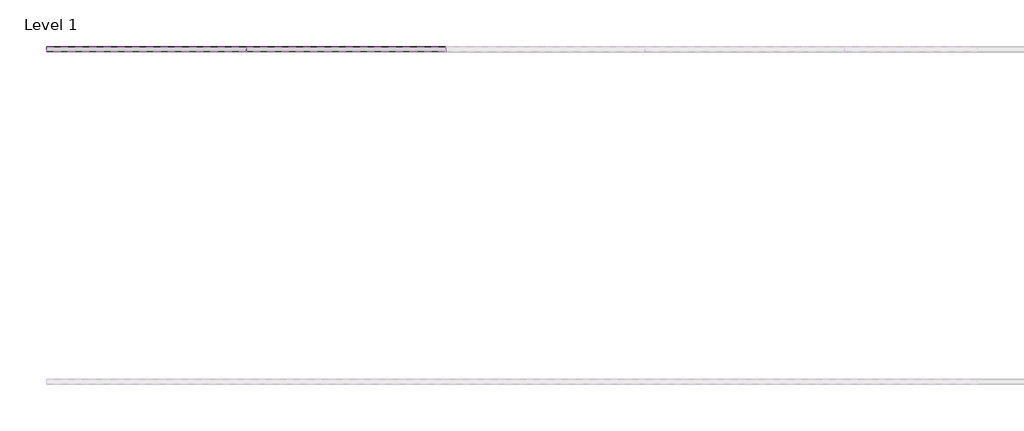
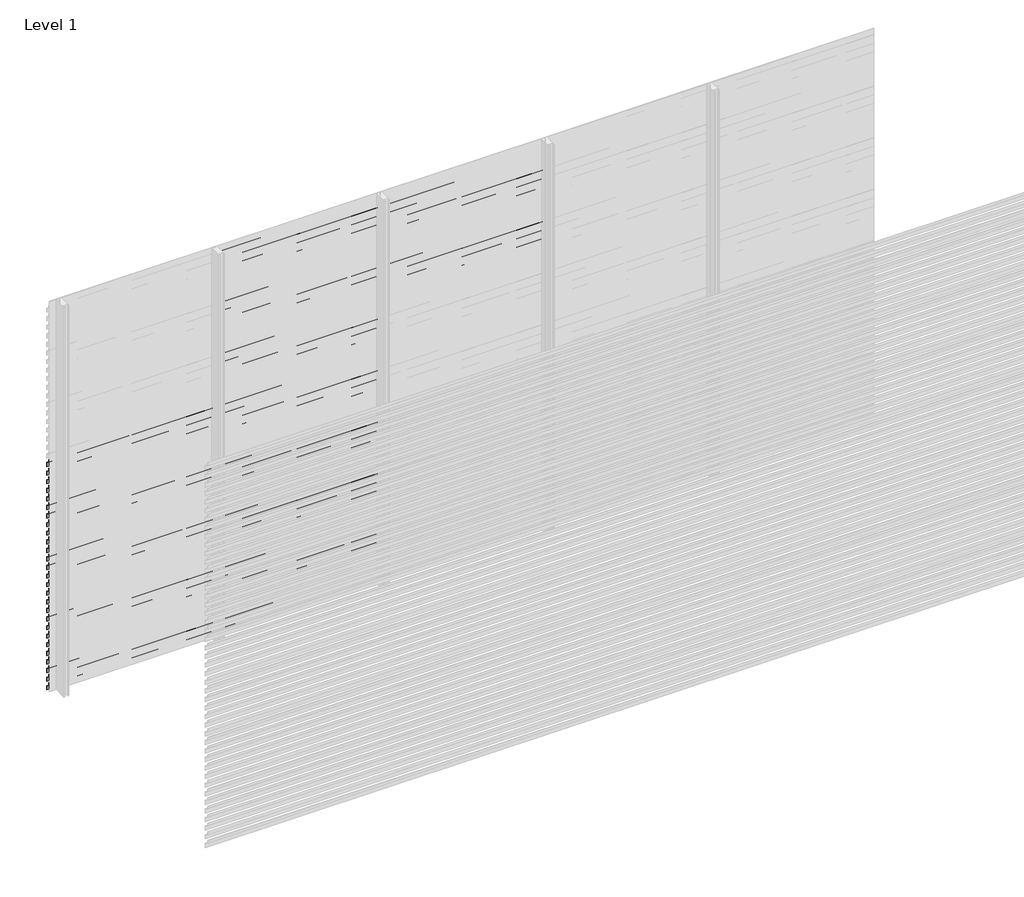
# One storey, part 106 of 540: 85 proxies.
"""IFC4 building model written with IfcOpenShell, lengths in millimetres."""

import ifcopenshell
import ifcopenshell.guid

model = None  # the IFC model being written
_history = None  # IfcOwnerHistory: only IFC2X3 demands one
_inside = {}  # id of a spatial element -> (the spatial element, [elements in it])
_under = {}  # id of a project, library or spatial element -> (it, [spatial elements below it])
_declared = {}  # id of a project -> (the project, [libraries it declares])
_typed = {}  # id of a type object -> (the type object, [elements of that type])
_made_of = {}  # id of a material, layer set ... -> (it, [elements and type objects made of it])


def new_model(schema):
    """Start an empty IFC model of exactly this schema.

    Asked for "IFC4X3", IfcOpenShell would pick the latest addendum, in which some entities
    have other attributes; the version numbers below select the first issue.
    IFC2X3 requires an IfcOwnerHistory on every rooted entity: one is made here for all.
    """
    global model, _history
    if schema == "IFC4X3":
        model = ifcopenshell.file(schema_version=(4, 3, 0, 0))
    else:
        model = ifcopenshell.file(schema=schema)
    _inside.clear()
    _under.clear()
    _declared.clear()
    _typed.clear()
    _made_of.clear()
    _history = None
    if model.schema == "IFC2X3":
        org = make("IfcOrganization", Name="unknown")
        user = make(
            "IfcPersonAndOrganization",
            ThePerson=make("IfcPerson", FamilyName="unknown"),
            TheOrganization=org,
        )
        app = make(
            "IfcApplication",
            ApplicationDeveloper=org,
            Version="unknown",
            ApplicationFullName="unknown",
            ApplicationIdentifier="unknown",
        )
        _history = make(
            "IfcOwnerHistory",
            OwningUser=user,
            OwningApplication=app,
            ChangeAction="ADDED",
            CreationDate=0,
        )
    return model


def make(cls, **values):
    """One entity of the class cls with the attributes given. An attribute that is None is left unset."""
    return model.create_entity(
        cls, **{name: value for name, value in values.items() if value is not None}
    )


def rooted(cls, **values):
    """An entity with a GlobalId (a new one), such as an element, a storey or a relation."""
    return make(cls, GlobalId=ifcopenshell.guid.new(), OwnerHistory=_history, **values)


def si_unit(unit_type, name, prefix=None):
    """IfcSIUnit, for example si_unit("LENGTHUNIT", "METRE", prefix="MILLI")."""
    return make("IfcSIUnit", UnitType=unit_type, Prefix=prefix, Name=name)


def assignment(units):
    """IfcUnitAssignment: the units of a project."""
    return None if units is None else make("IfcUnitAssignment", Units=units)


def point(xyz):
    """IfcCartesianPoint."""
    return None if xyz is None else make("IfcCartesianPoint", Coordinates=xyz)


def direction(xyz):
    """IfcDirection."""
    return None if xyz is None else make("IfcDirection", DirectionRatios=xyz)


def frame(location, z_axis=None, x_axis=None):
    """IfcAxis2Placement3D, a coordinate frame: its origin and axes. An axis left out is left unset."""
    return make(
        "IfcAxis2Placement3D",
        Location=point(location),
        Axis=direction(z_axis),
        RefDirection=direction(x_axis),
    )


def origin():
    """The frame at (0, 0, 0) with its axes left unset."""
    return frame((0.0, 0.0, 0.0))


def place(relative_to, where):
    """IfcLocalPlacement: puts the frame where relative to a parent placement (None: the world)."""
    return make(
        "IfcLocalPlacement", PlacementRelTo=relative_to, RelativePlacement=where
    )


def context(
    kind, dimensions, precision=None, world=None, true_north=None, identifier=None
):
    """IfcGeometricRepresentationContext, for example the 3D "Model" context."""
    return make(
        "IfcGeometricRepresentationContext",
        ContextIdentifier=identifier,
        ContextType=kind,
        CoordinateSpaceDimension=dimensions,
        Precision=precision,
        WorldCoordinateSystem=world,
        TrueNorth=true_north,
    )


def project(units=None, contexts=None):
    """IfcProject with its units and contexts."""
    return rooted(
        "IfcProject",
        Name="project",
        RepresentationContexts=contexts,
        UnitsInContext=assignment(units),
    )


def spatial(cls, under=None, at=None, **own):
    """A site, building, storey or space (cls), placed at a placement, below another one or the project."""
    s = rooted(cls, ObjectPlacement=at, **own)
    if under is not None:
        _under.setdefault(under.id(), (under, []))[1].append(s)
    return s


def polyline(points):
    """IfcPolyline through the points."""
    return make("IfcPolyline", Points=[point(p) for p in points])


def outline(outer, holes=None, kind="AREA"):
    """IfcArbitraryClosedProfileDef: a profile drawn as a closed curve; with holes, ...WithVoids."""
    if holes is None:
        return make("IfcArbitraryClosedProfileDef", ProfileType=kind, OuterCurve=outer)
    return make(
        "IfcArbitraryProfileDefWithVoids",
        ProfileType=kind,
        OuterCurve=outer,
        InnerCurves=holes,
    )


def extrude(swept, where, along, depth):
    """IfcExtrudedAreaSolid: the profile swept, set in the frame where, extruded along a direction by depth."""
    return make(
        "IfcExtrudedAreaSolid",
        SweptArea=swept,
        Position=where,
        ExtrudedDirection=direction(along),
        Depth=depth,
    )


def shape(context_of_items, identifier, shape_type, items):
    """IfcShapeRepresentation: the items that make up one representation, for example the "Body"."""
    return make(
        "IfcShapeRepresentation",
        ContextOfItems=context_of_items,
        RepresentationIdentifier=identifier,
        RepresentationType=shape_type,
        Items=items,
    )


def made_of(thing, what):
    """Note that an element or type object is made of a material, layer set ...; save() writes the relation."""
    if what is not None:
        _made_of.setdefault(what.id(), (what, []))[1].append(thing)
    return thing


def element(
    cls,
    number,
    at=None,
    inside=None,
    cuts=None,
    type_object=None,
    material=None,
    context=None,
    identifier="Body",
    shape_type=None,
    held_by="IfcProductDefinitionShape",
    body=None,
    shapes=None,
    **own,
):
    """One element of the class cls, such as IfcWall. Its Tag is "e" and its number.

    at: its placement. inside: the storey or other place that contains it. cuts: it is an
    opening in that element (IfcRelVoidsElement). A single representation is given by context,
    identifier, shape_type and body (its items); several are given by shapes. held_by: the class
    of the entity that holds the representations. save() writes the other relations.
    """
    e = rooted(cls, Tag="e%d" % number, ObjectPlacement=at, **own)
    if body is not None:
        shapes = [shape(context, identifier, shape_type, body)]
    if shapes is not None:
        e.Representation = make(held_by, Representations=shapes)
    if inside is not None:
        _inside.setdefault(inside.id(), (inside, []))[1].append(e)
    if cuts is not None:
        rooted(
            "IfcRelVoidsElement", RelatingBuildingElement=cuts, RelatedOpeningElement=e
        )
    if type_object is not None:
        _typed.setdefault(type_object.id(), (type_object, []))[1].append(e)
    return made_of(e, material)


def aggregate(whole, parts):
    """IfcRelAggregates: a whole, such as a stair, and the parts it consists of."""
    return rooted("IfcRelAggregates", RelatingObject=whole, RelatedObjects=parts)


def save(model, path):
    """Write the relations noted so far, then the file.

    IfcRelAggregates (storeys below a building ...), IfcRelContainedInSpatialStructure (elements
    in a storey), IfcRelDefinesByType, IfcRelAssociatesMaterial and IfcRelDeclares: one each for
    every whole, place, type object, material and project.
    """
    for whole, parts in _under.values():
        aggregate(whole, parts)
    for where, things in _inside.values():
        rooted(
            "IfcRelContainedInSpatialStructure",
            RelatedElements=things,
            RelatingStructure=where,
        )
    for kind, things in _typed.values():
        rooted("IfcRelDefinesByType", RelatedObjects=things, RelatingType=kind)
    for what, things in _made_of.values():
        rooted("IfcRelAssociatesMaterial", RelatedObjects=things, RelatingMaterial=what)
    for by, libraries in _declared.values():
        rooted("IfcRelDeclares", RelatingContext=by, RelatedDefinitions=libraries)
    model.write(path)


model = new_model("IFC4")

# Units and contexts
model_context = context("Model", 3, world=origin())
ifc_project = project(units=[si_unit("LENGTHUNIT", "METRE", prefix="MILLI")], contexts=[model_context])

# Site, building, storey
site = spatial("IfcSite", under=ifc_project)
building = spatial("IfcBuilding", under=site)
storey = spatial("IfcBuildingStorey", under=building, Name="Level 1", Elevation=0.0)

# Proxies
placement = place(None, origin())
element("IfcBuildingElementProxy", 1, Name="Wall Sweeps", at=placement, inside=storey, context=model_context, shape_type="SweptSolid", body=[
    extrude(outline(polyline([(51514.0540136, 1742.0), (51514.0540136, 1709.0), (51512.8040136, 1709.7216933), (51512.8040136, 1741.2872415), (51483.0540136, 1762.0588647), (51483.0540136, 1782.0), (51484.3040136, 1782.0), (51484.3040136, 1762.7716232), (51514.0540136, 1742.0)])), frame((44966.6208097, 0.0, 0.0), z_axis=(1.0, 0.0, 0.0), x_axis=(0.0, 1.0, 0.0)), (0.0, 0.0, 1.0), 1200.0),
])
element("IfcBuildingElementProxy", 2, Name="Wall Sweeps", at=placement, inside=storey, context=model_context, shape_type="SweptSolid", body=[
    extrude(outline(polyline([(51514.0540136, 1676.0), (51514.0540136, 1643.0), (51512.8040136, 1643.7216933), (51512.8040136, 1675.2872415), (51483.0540136, 1696.0588647), (51483.0540136, 1716.0), (51484.3040136, 1716.0), (51484.3040136, 1696.7716232), (51514.0540136, 1676.0)])), frame((44966.6208097, 0.0, 0.0), z_axis=(1.0, 0.0, 0.0), x_axis=(0.0, 1.0, 0.0)), (0.0, 0.0, 1.0), 1200.0),
])
element("IfcBuildingElementProxy", 3, Name="Wall Sweeps", at=placement, inside=storey, context=model_context, shape_type="SweptSolid", body=[
    extrude(outline(polyline([(51514.0540136, 1610.0), (51514.0540136, 1577.0), (51512.8040136, 1577.7216933), (51512.8040136, 1609.2872415), (51483.0540136, 1630.0588647), (51483.0540136, 1650.0), (51484.3040136, 1650.0), (51484.3040136, 1630.7716232), (51514.0540136, 1610.0)])), frame((44966.6208097, 0.0, 0.0), z_axis=(1.0, 0.0, 0.0), x_axis=(0.0, 1.0, 0.0)), (0.0, 0.0, 1.0), 1200.0),
])
element("IfcBuildingElementProxy", 4, Name="Wall Sweeps", at=placement, inside=storey, context=model_context, shape_type="SweptSolid", body=[
    extrude(outline(polyline([(51514.0540136, 1544.0), (51514.0540136, 1511.0), (51512.8040136, 1511.7216933), (51512.8040136, 1543.2872415), (51483.0540136, 1564.0588647), (51483.0540136, 1584.0), (51484.3040136, 1584.0), (51484.3040136, 1564.7716232), (51514.0540136, 1544.0)])), frame((44966.6208097, 0.0, 0.0), z_axis=(1.0, 0.0, 0.0), x_axis=(0.0, 1.0, 0.0)), (0.0, 0.0, 1.0), 1200.0),
])
element("IfcBuildingElementProxy", 5, Name="Wall Sweeps", at=placement, inside=storey, context=model_context, shape_type="SweptSolid", body=[
    extrude(outline(polyline([(51514.0540136, 1478.0), (51514.0540136, 1445.0), (51512.8040136, 1445.7216933), (51512.8040136, 1477.2872415), (51483.0540136, 1498.0588647), (51483.0540136, 1518.0), (51484.3040136, 1518.0), (51484.3040136, 1498.7716232), (51514.0540136, 1478.0)])), frame((44966.6208097, 0.0, 0.0), z_axis=(1.0, 0.0, 0.0), x_axis=(0.0, 1.0, 0.0)), (0.0, 0.0, 1.0), 1200.0),
])
element("IfcBuildingElementProxy", 6, Name="Wall Sweeps", at=placement, inside=storey, context=model_context, shape_type="SweptSolid", body=[
    extrude(outline(polyline([(51514.0540136, 1412.0), (51514.0540136, 1379.0), (51512.8040136, 1379.7216933), (51512.8040136, 1411.2872415), (51483.0540136, 1432.0588647), (51483.0540136, 1452.0), (51484.3040136, 1452.0), (51484.3040136, 1432.7716232), (51514.0540136, 1412.0)])), frame((44966.6208097, 0.0, 0.0), z_axis=(1.0, 0.0, 0.0), x_axis=(0.0, 1.0, 0.0)), (0.0, 0.0, 1.0), 1200.0),
])
element("IfcBuildingElementProxy", 7, Name="Wall Sweeps", at=placement, inside=storey, context=model_context, shape_type="SweptSolid", body=[
    extrude(outline(polyline([(51514.0540136, 1346.0), (51514.0540136, 1313.0), (51512.8040136, 1313.7216933), (51512.8040136, 1345.2872415), (51483.0540136, 1366.0588647), (51483.0540136, 1386.0), (51484.3040136, 1386.0), (51484.3040136, 1366.7716232), (51514.0540136, 1346.0)])), frame((44966.6208097, 0.0, 0.0), z_axis=(1.0, 0.0, 0.0), x_axis=(0.0, 1.0, 0.0)), (0.0, 0.0, 1.0), 1200.0),
])
element("IfcBuildingElementProxy", 8, Name="Wall Sweeps", at=placement, inside=storey, context=model_context, shape_type="SweptSolid", body=[
    extrude(outline(polyline([(51514.0540136, 1280.0), (51514.0540136, 1247.0), (51512.8040136, 1247.7216933), (51512.8040136, 1279.2872415), (51483.0540136, 1300.0588647), (51483.0540136, 1320.0), (51484.3040136, 1320.0), (51484.3040136, 1300.7716232), (51514.0540136, 1280.0)])), frame((44966.6208097, 0.0, 0.0), z_axis=(1.0, 0.0, 0.0), x_axis=(0.0, 1.0, 0.0)), (0.0, 0.0, 1.0), 1200.0),
])
element("IfcBuildingElementProxy", 9, Name="Wall Sweeps", at=placement, inside=storey, context=model_context, shape_type="SweptSolid", body=[
    extrude(outline(polyline([(51514.0540136, 1214.0), (51514.0540136, 1181.0), (51512.8040136, 1181.7216933), (51512.8040136, 1213.2872415), (51483.0540136, 1234.0588647), (51483.0540136, 1254.0), (51484.3040136, 1254.0), (51484.3040136, 1234.7716232), (51514.0540136, 1214.0)])), frame((44966.6208097, 0.0, 0.0), z_axis=(1.0, 0.0, 0.0), x_axis=(0.0, 1.0, 0.0)), (0.0, 0.0, 1.0), 1200.0),
])
element("IfcBuildingElementProxy", 10, Name="Wall Sweeps", at=placement, inside=storey, context=model_context, shape_type="SweptSolid", body=[
    extrude(outline(polyline([(51514.0540136, 1148.0), (51514.0540136, 1115.0), (51512.8040136, 1115.7216933), (51512.8040136, 1147.2872415), (51483.0540136, 1168.0588647), (51483.0540136, 1188.0), (51484.3040136, 1188.0), (51484.3040136, 1168.7716232), (51514.0540136, 1148.0)])), frame((44966.6208097, 0.0, 0.0), z_axis=(1.0, 0.0, 0.0), x_axis=(0.0, 1.0, 0.0)), (0.0, 0.0, 1.0), 1200.0),
])
element("IfcBuildingElementProxy", 11, Name="Wall Sweeps", at=placement, inside=storey, context=model_context, shape_type="SweptSolid", body=[
    extrude(outline(polyline([(51514.0540136, 1082.0), (51514.0540136, 1049.0), (51512.8040136, 1049.7216933), (51512.8040136, 1081.2872415), (51483.0540136, 1102.0588647), (51483.0540136, 1122.0), (51484.3040136, 1122.0), (51484.3040136, 1102.7716232), (51514.0540136, 1082.0)])), frame((44966.6208097, 0.0, 0.0), z_axis=(1.0, 0.0, 0.0), x_axis=(0.0, 1.0, 0.0)), (0.0, 0.0, 1.0), 1200.0),
])
element("IfcBuildingElementProxy", 12, Name="Wall Sweeps", at=placement, inside=storey, context=model_context, shape_type="SweptSolid", body=[
    extrude(outline(polyline([(51514.0540136, 1016.0), (51514.0540136, 983.0), (51512.8040136, 983.7216933), (51512.8040136, 1015.2872415), (51483.0540136, 1036.0588647), (51483.0540136, 1056.0), (51484.3040136, 1056.0), (51484.3040136, 1036.7716232), (51514.0540136, 1016.0)])), frame((44966.6208097, 0.0, 0.0), z_axis=(1.0, 0.0, 0.0), x_axis=(0.0, 1.0, 0.0)), (0.0, 0.0, 1.0), 1200.0),
])
element("IfcBuildingElementProxy", 13, Name="Wall Sweeps", at=placement, inside=storey, context=model_context, shape_type="SweptSolid", body=[
    extrude(outline(polyline([(51514.0540136, 950.0), (51514.0540136, 917.0), (51512.8040136, 917.7216933), (51512.8040136, 949.2872415), (51483.0540136, 970.0588647), (51483.0540136, 990.0), (51484.3040136, 990.0), (51484.3040136, 970.7716232), (51514.0540136, 950.0)])), frame((44966.6208097, 0.0, 0.0), z_axis=(1.0, 0.0, 0.0), x_axis=(0.0, 1.0, 0.0)), (0.0, 0.0, 1.0), 1200.0),
])
element("IfcBuildingElementProxy", 14, Name="Wall Sweeps", at=placement, inside=storey, context=model_context, shape_type="SweptSolid", body=[
    extrude(outline(polyline([(51514.0540136, 884.0), (51514.0540136, 851.0), (51512.8040136, 851.7216933), (51512.8040136, 883.2872415), (51483.0540136, 904.0588647), (51483.0540136, 924.0), (51484.3040136, 924.0), (51484.3040136, 904.7716232), (51514.0540136, 884.0)])), frame((44966.6208097, 0.0, 0.0), z_axis=(1.0, 0.0, 0.0), x_axis=(0.0, 1.0, 0.0)), (0.0, 0.0, 1.0), 1200.0),
])
element("IfcBuildingElementProxy", 15, Name="Wall Sweeps", at=placement, inside=storey, context=model_context, shape_type="SweptSolid", body=[
    extrude(outline(polyline([(51514.0540136, 818.0), (51514.0540136, 785.0), (51512.8040136, 785.7216933), (51512.8040136, 817.2872415), (51483.0540136, 838.0588647), (51483.0540136, 858.0), (51484.3040136, 858.0), (51484.3040136, 838.7716232), (51514.0540136, 818.0)])), frame((44966.6208097, 0.0, 0.0), z_axis=(1.0, 0.0, 0.0), x_axis=(0.0, 1.0, 0.0)), (0.0, 0.0, 1.0), 1200.0),
])
element("IfcBuildingElementProxy", 16, Name="Wall Sweeps", at=placement, inside=storey, context=model_context, shape_type="SweptSolid", body=[
    extrude(outline(polyline([(51514.0540136, 752.0), (51514.0540136, 719.0), (51512.8040136, 719.7216933), (51512.8040136, 751.2872415), (51483.0540136, 772.0588647), (51483.0540136, 792.0), (51484.3040136, 792.0), (51484.3040136, 772.7716232), (51514.0540136, 752.0)])), frame((44966.6208097, 0.0, 0.0), z_axis=(1.0, 0.0, 0.0), x_axis=(0.0, 1.0, 0.0)), (0.0, 0.0, 1.0), 1200.0),
])
element("IfcBuildingElementProxy", 17, Name="Wall Sweeps", at=placement, inside=storey, context=model_context, shape_type="SweptSolid", body=[
    extrude(outline(polyline([(51514.0540136, 686.0), (51514.0540136, 653.0), (51512.8040136, 653.7216933), (51512.8040136, 685.2872415), (51483.0540136, 706.0588647), (51483.0540136, 726.0), (51484.3040136, 726.0), (51484.3040136, 706.7716232), (51514.0540136, 686.0)])), frame((44966.6208097, 0.0, 0.0), z_axis=(1.0, 0.0, 0.0), x_axis=(0.0, 1.0, 0.0)), (0.0, 0.0, 1.0), 1200.0),
])
element("IfcBuildingElementProxy", 18, Name="Wall Sweeps", at=placement, inside=storey, context=model_context, shape_type="SweptSolid", body=[
    extrude(outline(polyline([(51514.0540136, 620.0), (51514.0540136, 587.0), (51512.8040136, 587.7216933), (51512.8040136, 619.2872415), (51483.0540136, 640.0588647), (51483.0540136, 660.0), (51484.3040136, 660.0), (51484.3040136, 640.7716232), (51514.0540136, 620.0)])), frame((44966.6208097, 0.0, 0.0), z_axis=(1.0, 0.0, 0.0), x_axis=(0.0, 1.0, 0.0)), (0.0, 0.0, 1.0), 1200.0),
])
element("IfcBuildingElementProxy", 19, Name="Wall Sweeps", at=placement, inside=storey, context=model_context, shape_type="SweptSolid", body=[
    extrude(outline(polyline([(51514.0540136, 554.0), (51514.0540136, 521.0), (51512.8040136, 521.7216933), (51512.8040136, 553.2872415), (51483.0540136, 574.0588647), (51483.0540136, 594.0), (51484.3040136, 594.0), (51484.3040136, 574.7716232), (51514.0540136, 554.0)])), frame((44966.6208097, 0.0, 0.0), z_axis=(1.0, 0.0, 0.0), x_axis=(0.0, 1.0, 0.0)), (0.0, 0.0, 1.0), 1200.0),
])
element("IfcBuildingElementProxy", 20, Name="Wall Sweeps", at=placement, inside=storey, context=model_context, shape_type="SweptSolid", body=[
    extrude(outline(polyline([(51514.0540136, 488.0), (51514.0540136, 455.0), (51512.8040136, 455.7216933), (51512.8040136, 487.2872415), (51483.0540136, 508.0588647), (51483.0540136, 528.0), (51484.3040136, 528.0), (51484.3040136, 508.7716232), (51514.0540136, 488.0)])), frame((44966.6208097, 0.0, 0.0), z_axis=(1.0, 0.0, 0.0), x_axis=(0.0, 1.0, 0.0)), (0.0, 0.0, 1.0), 1200.0),
])
element("IfcBuildingElementProxy", 21, Name="Wall Sweeps", at=placement, inside=storey, context=model_context, shape_type="SweptSolid", body=[
    extrude(outline(polyline([(51514.0540136, 422.0), (51514.0540136, 389.0), (51512.8040136, 389.7216933), (51512.8040136, 421.2872415), (51483.0540136, 442.0588647), (51483.0540136, 462.0), (51484.3040136, 462.0), (51484.3040136, 442.7716232), (51514.0540136, 422.0)])), frame((44966.6208097, 0.0, 0.0), z_axis=(1.0, 0.0, 0.0), x_axis=(0.0, 1.0, 0.0)), (0.0, 0.0, 1.0), 1200.0),
])
element("IfcBuildingElementProxy", 22, Name="Wall Sweeps", at=placement, inside=storey, context=model_context, shape_type="SweptSolid", body=[
    extrude(outline(polyline([(51514.0540136, 356.0), (51514.0540136, 323.0), (51512.8040136, 323.7216933), (51512.8040136, 355.2872415), (51483.0540136, 376.0588647), (51483.0540136, 396.0), (51484.3040136, 396.0), (51484.3040136, 376.7716232), (51514.0540136, 356.0)])), frame((44966.6208097, 0.0, 0.0), z_axis=(1.0, 0.0, 0.0), x_axis=(0.0, 1.0, 0.0)), (0.0, 0.0, 1.0), 1200.0),
])
element("IfcBuildingElementProxy", 23, Name="Wall Sweeps", at=placement, inside=storey, context=model_context, shape_type="SweptSolid", body=[
    extrude(outline(polyline([(51514.0540136, 290.0), (51514.0540136, 257.0), (51512.8040136, 257.7216933), (51512.8040136, 289.2872415), (51483.0540136, 310.0588647), (51483.0540136, 330.0), (51484.3040136, 330.0), (51484.3040136, 310.7716232), (51514.0540136, 290.0)])), frame((44966.6208097, 0.0, 0.0), z_axis=(1.0, 0.0, 0.0), x_axis=(0.0, 1.0, 0.0)), (0.0, 0.0, 1.0), 1200.0),
])
element("IfcBuildingElementProxy", 24, Name="Wall Sweeps", at=placement, inside=storey, context=model_context, shape_type="SweptSolid", body=[
    extrude(outline(polyline([(51514.0540136, 224.0), (51514.0540136, 191.0), (51512.8040136, 191.7216933), (51512.8040136, 223.2872415), (51483.0540136, 244.0588647), (51483.0540136, 264.0), (51484.3040136, 264.0), (51484.3040136, 244.7716232), (51514.0540136, 224.0)])), frame((44966.6208097, 0.0, 0.0), z_axis=(1.0, 0.0, 0.0), x_axis=(0.0, 1.0, 0.0)), (0.0, 0.0, 1.0), 1200.0),
])
element("IfcBuildingElementProxy", 25, Name="Wall Sweeps", at=placement, inside=storey, context=model_context, shape_type="SweptSolid", body=[
    extrude(outline(polyline([(51514.0540136, 158.0), (51514.0540136, 125.0), (51512.8040136, 125.7216933), (51512.8040136, 157.2872415), (51483.0540136, 178.0588647), (51483.0540136, 198.0), (51484.3040136, 198.0), (51484.3040136, 178.7716232), (51514.0540136, 158.0)])), frame((44966.6208097, 0.0, 0.0), z_axis=(1.0, 0.0, 0.0), x_axis=(0.0, 1.0, 0.0)), (0.0, 0.0, 1.0), 1200.0),
])
element("IfcBuildingElementProxy", 26, Name="Wall Sweeps", at=placement, inside=storey, context=model_context, shape_type="SweptSolid", body=[
    extrude(outline(polyline([(51514.0540136, 92.0), (51514.0540136, 59.0), (51512.8040136, 59.7216933), (51512.8040136, 91.2872415), (51483.0540136, 112.0588647), (51483.0540136, 132.0), (51484.3040136, 132.0), (51484.3040136, 112.7716232), (51514.0540136, 92.0)])), frame((44966.6208097, 0.0, 0.0), z_axis=(1.0, 0.0, 0.0), x_axis=(0.0, 1.0, 0.0)), (0.0, 0.0, 1.0), 1200.0),
])
element("IfcBuildingElementProxy", 27, Name="Wall Sweeps", at=placement, inside=storey, context=model_context, shape_type="SweptSolid", body=[
    extrude(outline(polyline([(51514.0540136, 26.0), (51514.0540136, -7.0), (51512.8040136, -6.2783067), (51512.8040136, 25.2872415), (51483.0540136, 46.0588647), (51483.0540136, 66.0), (51484.3040136, 66.0), (51484.3040136, 46.7716232), (51514.0540136, 26.0)])), frame((44966.6208097, 0.0, 0.0), z_axis=(1.0, 0.0, 0.0), x_axis=(0.0, 1.0, 0.0)), (0.0, 0.0, 1.0), 1200.0),
])
element("IfcBuildingElementProxy", 28, Name="Wall Sweeps", at=placement, inside=storey, context=model_context, shape_type="SweptSolid", body=[
    extrude(outline(polyline([(51514.0540136, 2930.0), (51514.0540136, 2897.0), (51512.8040136, 2897.7216933), (51512.8040136, 2929.2872415), (51483.0540136, 2950.0588647), (51483.0540136, 2970.0), (51484.3040136, 2970.0), (51484.3040136, 2950.7716232), (51514.0540136, 2930.0)])), frame((46166.6208097, 0.0, 0.0), z_axis=(1.0, 0.0, 0.0), x_axis=(0.0, 1.0, 0.0)), (0.0, 0.0, 1.0), 1200.0),
])
element("IfcBuildingElementProxy", 29, Name="Wall Sweeps", at=placement, inside=storey, context=model_context, shape_type="SweptSolid", body=[
    extrude(outline(polyline([(51514.0540136, 2864.0), (51514.0540136, 2831.0), (51512.8040136, 2831.7216933), (51512.8040136, 2863.2872415), (51483.0540136, 2884.0588647), (51483.0540136, 2904.0), (51484.3040136, 2904.0), (51484.3040136, 2884.7716232), (51514.0540136, 2864.0)])), frame((46166.6208097, 0.0, 0.0), z_axis=(1.0, 0.0, 0.0), x_axis=(0.0, 1.0, 0.0)), (0.0, 0.0, 1.0), 1200.0),
])
element("IfcBuildingElementProxy", 30, Name="Wall Sweeps", at=placement, inside=storey, context=model_context, shape_type="SweptSolid", body=[
    extrude(outline(polyline([(51514.0540136, 2798.0), (51514.0540136, 2765.0), (51512.8040136, 2765.7216933), (51512.8040136, 2797.2872415), (51483.0540136, 2818.0588647), (51483.0540136, 2838.0), (51484.3040136, 2838.0), (51484.3040136, 2818.7716232), (51514.0540136, 2798.0)])), frame((46166.6208097, 0.0, 0.0), z_axis=(1.0, 0.0, 0.0), x_axis=(0.0, 1.0, 0.0)), (0.0, 0.0, 1.0), 1200.0),
])
element("IfcBuildingElementProxy", 31, Name="Wall Sweeps", at=placement, inside=storey, context=model_context, shape_type="SweptSolid", body=[
    extrude(outline(polyline([(51514.0540136, 2732.0), (51514.0540136, 2699.0), (51512.8040136, 2699.7216933), (51512.8040136, 2731.2872415), (51483.0540136, 2752.0588647), (51483.0540136, 2772.0), (51484.3040136, 2772.0), (51484.3040136, 2752.7716232), (51514.0540136, 2732.0)])), frame((46166.6208097, 0.0, 0.0), z_axis=(1.0, 0.0, 0.0), x_axis=(0.0, 1.0, 0.0)), (0.0, 0.0, 1.0), 1200.0),
])
element("IfcBuildingElementProxy", 32, Name="Wall Sweeps", at=placement, inside=storey, context=model_context, shape_type="SweptSolid", body=[
    extrude(outline(polyline([(51514.0540136, 2666.0), (51514.0540136, 2633.0), (51512.8040136, 2633.7216933), (51512.8040136, 2665.2872415), (51483.0540136, 2686.0588647), (51483.0540136, 2706.0), (51484.3040136, 2706.0), (51484.3040136, 2686.7716232), (51514.0540136, 2666.0)])), frame((46166.6208097, 0.0, 0.0), z_axis=(1.0, 0.0, 0.0), x_axis=(0.0, 1.0, 0.0)), (0.0, 0.0, 1.0), 1200.0),
])
element("IfcBuildingElementProxy", 33, Name="Wall Sweeps", at=placement, inside=storey, context=model_context, shape_type="SweptSolid", body=[
    extrude(outline(polyline([(51514.0540136, 2600.0), (51514.0540136, 2567.0), (51512.8040136, 2567.7216933), (51512.8040136, 2599.2872415), (51483.0540136, 2620.0588647), (51483.0540136, 2640.0), (51484.3040136, 2640.0), (51484.3040136, 2620.7716232), (51514.0540136, 2600.0)])), frame((46166.6208097, 0.0, 0.0), z_axis=(1.0, 0.0, 0.0), x_axis=(0.0, 1.0, 0.0)), (0.0, 0.0, 1.0), 1200.0),
])
element("IfcBuildingElementProxy", 34, Name="Wall Sweeps", at=placement, inside=storey, context=model_context, shape_type="SweptSolid", body=[
    extrude(outline(polyline([(51514.0540136, 2534.0), (51514.0540136, 2501.0), (51512.8040136, 2501.7216933), (51512.8040136, 2533.2872415), (51483.0540136, 2554.0588647), (51483.0540136, 2574.0), (51484.3040136, 2574.0), (51484.3040136, 2554.7716232), (51514.0540136, 2534.0)])), frame((46166.6208097, 0.0, 0.0), z_axis=(1.0, 0.0, 0.0), x_axis=(0.0, 1.0, 0.0)), (0.0, 0.0, 1.0), 1200.0),
])
element("IfcBuildingElementProxy", 35, Name="Wall Sweeps", at=placement, inside=storey, context=model_context, shape_type="SweptSolid", body=[
    extrude(outline(polyline([(51514.0540136, 2468.0), (51514.0540136, 2435.0), (51512.8040136, 2435.7216933), (51512.8040136, 2467.2872415), (51483.0540136, 2488.0588647), (51483.0540136, 2508.0), (51484.3040136, 2508.0), (51484.3040136, 2488.7716232), (51514.0540136, 2468.0)])), frame((46166.6208097, 0.0, 0.0), z_axis=(1.0, 0.0, 0.0), x_axis=(0.0, 1.0, 0.0)), (0.0, 0.0, 1.0), 1200.0),
])
element("IfcBuildingElementProxy", 36, Name="Wall Sweeps", at=placement, inside=storey, context=model_context, shape_type="SweptSolid", body=[
    extrude(outline(polyline([(51514.0540136, 2402.0), (51514.0540136, 2369.0), (51512.8040136, 2369.7216933), (51512.8040136, 2401.2872415), (51483.0540136, 2422.0588647), (51483.0540136, 2442.0), (51484.3040136, 2442.0), (51484.3040136, 2422.7716232), (51514.0540136, 2402.0)])), frame((46166.6208097, 0.0, 0.0), z_axis=(1.0, 0.0, 0.0), x_axis=(0.0, 1.0, 0.0)), (0.0, 0.0, 1.0), 1200.0),
])
element("IfcBuildingElementProxy", 37, Name="Wall Sweeps", at=placement, inside=storey, context=model_context, shape_type="SweptSolid", body=[
    extrude(outline(polyline([(51514.0540136, 2336.0), (51514.0540136, 2303.0), (51512.8040136, 2303.7216933), (51512.8040136, 2335.2872415), (51483.0540136, 2356.0588647), (51483.0540136, 2376.0), (51484.3040136, 2376.0), (51484.3040136, 2356.7716232), (51514.0540136, 2336.0)])), frame((46166.6208097, 0.0, 0.0), z_axis=(1.0, 0.0, 0.0), x_axis=(0.0, 1.0, 0.0)), (0.0, 0.0, 1.0), 1200.0),
])
element("IfcBuildingElementProxy", 38, Name="Wall Sweeps", at=placement, inside=storey, context=model_context, shape_type="SweptSolid", body=[
    extrude(outline(polyline([(51514.0540136, 2270.0), (51514.0540136, 2237.0), (51512.8040136, 2237.7216933), (51512.8040136, 2269.2872415), (51483.0540136, 2290.0588647), (51483.0540136, 2310.0), (51484.3040136, 2310.0), (51484.3040136, 2290.7716232), (51514.0540136, 2270.0)])), frame((46166.6208097, 0.0, 0.0), z_axis=(1.0, 0.0, 0.0), x_axis=(0.0, 1.0, 0.0)), (0.0, 0.0, 1.0), 1200.0),
])
element("IfcBuildingElementProxy", 39, Name="Wall Sweeps", at=placement, inside=storey, context=model_context, shape_type="SweptSolid", body=[
    extrude(outline(polyline([(51514.0540136, 2204.0), (51514.0540136, 2171.0), (51512.8040136, 2171.7216933), (51512.8040136, 2203.2872415), (51483.0540136, 2224.0588647), (51483.0540136, 2244.0), (51484.3040136, 2244.0), (51484.3040136, 2224.7716232), (51514.0540136, 2204.0)])), frame((46166.6208097, 0.0, 0.0), z_axis=(1.0, 0.0, 0.0), x_axis=(0.0, 1.0, 0.0)), (0.0, 0.0, 1.0), 1200.0),
])
element("IfcBuildingElementProxy", 40, Name="Wall Sweeps", at=placement, inside=storey, context=model_context, shape_type="SweptSolid", body=[
    extrude(outline(polyline([(51514.0540136, 2138.0), (51514.0540136, 2105.0), (51512.8040136, 2105.7216933), (51512.8040136, 2137.2872415), (51483.0540136, 2158.0588647), (51483.0540136, 2178.0), (51484.3040136, 2178.0), (51484.3040136, 2158.7716232), (51514.0540136, 2138.0)])), frame((46166.6208097, 0.0, 0.0), z_axis=(1.0, 0.0, 0.0), x_axis=(0.0, 1.0, 0.0)), (0.0, 0.0, 1.0), 1200.0),
])
element("IfcBuildingElementProxy", 41, Name="Wall Sweeps", at=placement, inside=storey, context=model_context, shape_type="SweptSolid", body=[
    extrude(outline(polyline([(51514.0540136, 2072.0), (51514.0540136, 2039.0), (51512.8040136, 2039.7216933), (51512.8040136, 2071.2872415), (51483.0540136, 2092.0588647), (51483.0540136, 2112.0), (51484.3040136, 2112.0), (51484.3040136, 2092.7716232), (51514.0540136, 2072.0)])), frame((46166.6208097, 0.0, 0.0), z_axis=(1.0, 0.0, 0.0), x_axis=(0.0, 1.0, 0.0)), (0.0, 0.0, 1.0), 1200.0),
])
element("IfcBuildingElementProxy", 42, Name="Wall Sweeps", at=placement, inside=storey, context=model_context, shape_type="SweptSolid", body=[
    extrude(outline(polyline([(51514.0540136, 2006.0), (51514.0540136, 1973.0), (51512.8040136, 1973.7216933), (51512.8040136, 2005.2872415), (51483.0540136, 2026.0588647), (51483.0540136, 2046.0), (51484.3040136, 2046.0), (51484.3040136, 2026.7716232), (51514.0540136, 2006.0)])), frame((46166.6208097, 0.0, 0.0), z_axis=(1.0, 0.0, 0.0), x_axis=(0.0, 1.0, 0.0)), (0.0, 0.0, 1.0), 1200.0),
])
element("IfcBuildingElementProxy", 43, Name="Wall Sweeps", at=placement, inside=storey, context=model_context, shape_type="SweptSolid", body=[
    extrude(outline(polyline([(51514.0540136, 1940.0), (51514.0540136, 1907.0), (51512.8040136, 1907.7216933), (51512.8040136, 1939.2872415), (51483.0540136, 1960.0588647), (51483.0540136, 1980.0), (51484.3040136, 1980.0), (51484.3040136, 1960.7716232), (51514.0540136, 1940.0)])), frame((46166.6208097, 0.0, 0.0), z_axis=(1.0, 0.0, 0.0), x_axis=(0.0, 1.0, 0.0)), (0.0, 0.0, 1.0), 1200.0),
])
element("IfcBuildingElementProxy", 44, Name="Wall Sweeps", at=placement, inside=storey, context=model_context, shape_type="SweptSolid", body=[
    extrude(outline(polyline([(51514.0540136, 1874.0), (51514.0540136, 1841.0), (51512.8040136, 1841.7216933), (51512.8040136, 1873.2872415), (51483.0540136, 1894.0588647), (51483.0540136, 1914.0), (51484.3040136, 1914.0), (51484.3040136, 1894.7716232), (51514.0540136, 1874.0)])), frame((46166.6208097, 0.0, 0.0), z_axis=(1.0, 0.0, 0.0), x_axis=(0.0, 1.0, 0.0)), (0.0, 0.0, 1.0), 1200.0),
])
element("IfcBuildingElementProxy", 45, Name="Wall Sweeps", at=placement, inside=storey, context=model_context, shape_type="SweptSolid", body=[
    extrude(outline(polyline([(51514.0540136, 1808.0), (51514.0540136, 1775.0), (51512.8040136, 1775.7216933), (51512.8040136, 1807.2872415), (51483.0540136, 1828.0588647), (51483.0540136, 1848.0), (51484.3040136, 1848.0), (51484.3040136, 1828.7716232), (51514.0540136, 1808.0)])), frame((46166.6208097, 0.0, 0.0), z_axis=(1.0, 0.0, 0.0), x_axis=(0.0, 1.0, 0.0)), (0.0, 0.0, 1.0), 1200.0),
])
element("IfcBuildingElementProxy", 46, Name="Wall Sweeps", at=placement, inside=storey, context=model_context, shape_type="SweptSolid", body=[
    extrude(outline(polyline([(51514.0540136, 1742.0), (51514.0540136, 1709.0), (51512.8040136, 1709.7216933), (51512.8040136, 1741.2872415), (51483.0540136, 1762.0588647), (51483.0540136, 1782.0), (51484.3040136, 1782.0), (51484.3040136, 1762.7716232), (51514.0540136, 1742.0)])), frame((46166.6208097, 0.0, 0.0), z_axis=(1.0, 0.0, 0.0), x_axis=(0.0, 1.0, 0.0)), (0.0, 0.0, 1.0), 1200.0),
])
element("IfcBuildingElementProxy", 47, Name="Wall Sweeps", at=placement, inside=storey, context=model_context, shape_type="SweptSolid", body=[
    extrude(outline(polyline([(51514.0540136, 1676.0), (51514.0540136, 1643.0), (51512.8040136, 1643.7216933), (51512.8040136, 1675.2872415), (51483.0540136, 1696.0588647), (51483.0540136, 1716.0), (51484.3040136, 1716.0), (51484.3040136, 1696.7716232), (51514.0540136, 1676.0)])), frame((46166.6208097, 0.0, 0.0), z_axis=(1.0, 0.0, 0.0), x_axis=(0.0, 1.0, 0.0)), (0.0, 0.0, 1.0), 1200.0),
])
element("IfcBuildingElementProxy", 48, Name="Wall Sweeps", at=placement, inside=storey, context=model_context, shape_type="SweptSolid", body=[
    extrude(outline(polyline([(51514.0540136, 1610.0), (51514.0540136, 1577.0), (51512.8040136, 1577.7216933), (51512.8040136, 1609.2872415), (51483.0540136, 1630.0588647), (51483.0540136, 1650.0), (51484.3040136, 1650.0), (51484.3040136, 1630.7716232), (51514.0540136, 1610.0)])), frame((46166.6208097, 0.0, 0.0), z_axis=(1.0, 0.0, 0.0), x_axis=(0.0, 1.0, 0.0)), (0.0, 0.0, 1.0), 1200.0),
])
element("IfcBuildingElementProxy", 49, Name="Wall Sweeps", at=placement, inside=storey, context=model_context, shape_type="SweptSolid", body=[
    extrude(outline(polyline([(51514.0540136, 1544.0), (51514.0540136, 1511.0), (51512.8040136, 1511.7216933), (51512.8040136, 1543.2872415), (51483.0540136, 1564.0588647), (51483.0540136, 1584.0), (51484.3040136, 1584.0), (51484.3040136, 1564.7716232), (51514.0540136, 1544.0)])), frame((46166.6208097, 0.0, 0.0), z_axis=(1.0, 0.0, 0.0), x_axis=(0.0, 1.0, 0.0)), (0.0, 0.0, 1.0), 1200.0),
])
element("IfcBuildingElementProxy", 50, Name="Wall Sweeps", at=placement, inside=storey, context=model_context, shape_type="SweptSolid", body=[
    extrude(outline(polyline([(51514.0540136, 1478.0), (51514.0540136, 1445.0), (51512.8040136, 1445.7216933), (51512.8040136, 1477.2872415), (51483.0540136, 1498.0588647), (51483.0540136, 1518.0), (51484.3040136, 1518.0), (51484.3040136, 1498.7716232), (51514.0540136, 1478.0)])), frame((46166.6208097, 0.0, 0.0), z_axis=(1.0, 0.0, 0.0), x_axis=(0.0, 1.0, 0.0)), (0.0, 0.0, 1.0), 1200.0),
])
element("IfcBuildingElementProxy", 51, Name="Wall Sweeps", at=placement, inside=storey, context=model_context, shape_type="SweptSolid", body=[
    extrude(outline(polyline([(51514.0540136, 1412.0), (51514.0540136, 1379.0), (51512.8040136, 1379.7216933), (51512.8040136, 1411.2872415), (51483.0540136, 1432.0588647), (51483.0540136, 1452.0), (51484.3040136, 1452.0), (51484.3040136, 1432.7716232), (51514.0540136, 1412.0)])), frame((46166.6208097, 0.0, 0.0), z_axis=(1.0, 0.0, 0.0), x_axis=(0.0, 1.0, 0.0)), (0.0, 0.0, 1.0), 1200.0),
])
element("IfcBuildingElementProxy", 52, Name="Wall Sweeps", at=placement, inside=storey, context=model_context, shape_type="SweptSolid", body=[
    extrude(outline(polyline([(51514.0540136, 1346.0), (51514.0540136, 1313.0), (51512.8040136, 1313.7216933), (51512.8040136, 1345.2872415), (51483.0540136, 1366.0588647), (51483.0540136, 1386.0), (51484.3040136, 1386.0), (51484.3040136, 1366.7716232), (51514.0540136, 1346.0)])), frame((46166.6208097, 0.0, 0.0), z_axis=(1.0, 0.0, 0.0), x_axis=(0.0, 1.0, 0.0)), (0.0, 0.0, 1.0), 1200.0),
])
element("IfcBuildingElementProxy", 53, Name="Wall Sweeps", at=placement, inside=storey, context=model_context, shape_type="SweptSolid", body=[
    extrude(outline(polyline([(51514.0540136, 1280.0), (51514.0540136, 1247.0), (51512.8040136, 1247.7216933), (51512.8040136, 1279.2872415), (51483.0540136, 1300.0588647), (51483.0540136, 1320.0), (51484.3040136, 1320.0), (51484.3040136, 1300.7716232), (51514.0540136, 1280.0)])), frame((46166.6208097, 0.0, 0.0), z_axis=(1.0, 0.0, 0.0), x_axis=(0.0, 1.0, 0.0)), (0.0, 0.0, 1.0), 1200.0),
])
element("IfcBuildingElementProxy", 54, Name="Wall Sweeps", at=placement, inside=storey, context=model_context, shape_type="SweptSolid", body=[
    extrude(outline(polyline([(51514.0540136, 1214.0), (51514.0540136, 1181.0), (51512.8040136, 1181.7216933), (51512.8040136, 1213.2872415), (51483.0540136, 1234.0588647), (51483.0540136, 1254.0), (51484.3040136, 1254.0), (51484.3040136, 1234.7716232), (51514.0540136, 1214.0)])), frame((46166.6208097, 0.0, 0.0), z_axis=(1.0, 0.0, 0.0), x_axis=(0.0, 1.0, 0.0)), (0.0, 0.0, 1.0), 1200.0),
])
element("IfcBuildingElementProxy", 55, Name="Wall Sweeps", at=placement, inside=storey, context=model_context, shape_type="SweptSolid", body=[
    extrude(outline(polyline([(51514.0540136, 1148.0), (51514.0540136, 1115.0), (51512.8040136, 1115.7216933), (51512.8040136, 1147.2872415), (51483.0540136, 1168.0588647), (51483.0540136, 1188.0), (51484.3040136, 1188.0), (51484.3040136, 1168.7716232), (51514.0540136, 1148.0)])), frame((46166.6208097, 0.0, 0.0), z_axis=(1.0, 0.0, 0.0), x_axis=(0.0, 1.0, 0.0)), (0.0, 0.0, 1.0), 1200.0),
])
element("IfcBuildingElementProxy", 56, Name="Wall Sweeps", at=placement, inside=storey, context=model_context, shape_type="SweptSolid", body=[
    extrude(outline(polyline([(51514.0540136, 1082.0), (51514.0540136, 1049.0), (51512.8040136, 1049.7216933), (51512.8040136, 1081.2872415), (51483.0540136, 1102.0588647), (51483.0540136, 1122.0), (51484.3040136, 1122.0), (51484.3040136, 1102.7716232), (51514.0540136, 1082.0)])), frame((46166.6208097, 0.0, 0.0), z_axis=(1.0, 0.0, 0.0), x_axis=(0.0, 1.0, 0.0)), (0.0, 0.0, 1.0), 1200.0),
])
element("IfcBuildingElementProxy", 57, Name="Wall Sweeps", at=placement, inside=storey, context=model_context, shape_type="SweptSolid", body=[
    extrude(outline(polyline([(51514.0540136, 1016.0), (51514.0540136, 983.0), (51512.8040136, 983.7216933), (51512.8040136, 1015.2872415), (51483.0540136, 1036.0588647), (51483.0540136, 1056.0), (51484.3040136, 1056.0), (51484.3040136, 1036.7716232), (51514.0540136, 1016.0)])), frame((46166.6208097, 0.0, 0.0), z_axis=(1.0, 0.0, 0.0), x_axis=(0.0, 1.0, 0.0)), (0.0, 0.0, 1.0), 1200.0),
])
element("IfcBuildingElementProxy", 58, Name="Wall Sweeps", at=placement, inside=storey, context=model_context, shape_type="SweptSolid", body=[
    extrude(outline(polyline([(51514.0540136, 950.0), (51514.0540136, 917.0), (51512.8040136, 917.7216933), (51512.8040136, 949.2872415), (51483.0540136, 970.0588647), (51483.0540136, 990.0), (51484.3040136, 990.0), (51484.3040136, 970.7716232), (51514.0540136, 950.0)])), frame((46166.6208097, 0.0, 0.0), z_axis=(1.0, 0.0, 0.0), x_axis=(0.0, 1.0, 0.0)), (0.0, 0.0, 1.0), 1200.0),
])
element("IfcBuildingElementProxy", 59, Name="Wall Sweeps", at=placement, inside=storey, context=model_context, shape_type="SweptSolid", body=[
    extrude(outline(polyline([(51514.0540136, 884.0), (51514.0540136, 851.0), (51512.8040136, 851.7216933), (51512.8040136, 883.2872415), (51483.0540136, 904.0588647), (51483.0540136, 924.0), (51484.3040136, 924.0), (51484.3040136, 904.7716232), (51514.0540136, 884.0)])), frame((46166.6208097, 0.0, 0.0), z_axis=(1.0, 0.0, 0.0), x_axis=(0.0, 1.0, 0.0)), (0.0, 0.0, 1.0), 1200.0),
])
element("IfcBuildingElementProxy", 60, Name="Wall Sweeps", at=placement, inside=storey, context=model_context, shape_type="SweptSolid", body=[
    extrude(outline(polyline([(51514.0540136, 818.0), (51514.0540136, 785.0), (51512.8040136, 785.7216933), (51512.8040136, 817.2872415), (51483.0540136, 838.0588647), (51483.0540136, 858.0), (51484.3040136, 858.0), (51484.3040136, 838.7716232), (51514.0540136, 818.0)])), frame((46166.6208097, 0.0, 0.0), z_axis=(1.0, 0.0, 0.0), x_axis=(0.0, 1.0, 0.0)), (0.0, 0.0, 1.0), 1200.0),
])
element("IfcBuildingElementProxy", 61, Name="Wall Sweeps", at=placement, inside=storey, context=model_context, shape_type="SweptSolid", body=[
    extrude(outline(polyline([(51514.0540136, 752.0), (51514.0540136, 719.0), (51512.8040136, 719.7216933), (51512.8040136, 751.2872415), (51483.0540136, 772.0588647), (51483.0540136, 792.0), (51484.3040136, 792.0), (51484.3040136, 772.7716232), (51514.0540136, 752.0)])), frame((46166.6208097, 0.0, 0.0), z_axis=(1.0, 0.0, 0.0), x_axis=(0.0, 1.0, 0.0)), (0.0, 0.0, 1.0), 1200.0),
])
element("IfcBuildingElementProxy", 62, Name="Wall Sweeps", at=placement, inside=storey, context=model_context, shape_type="SweptSolid", body=[
    extrude(outline(polyline([(51514.0540136, 686.0), (51514.0540136, 653.0), (51512.8040136, 653.7216933), (51512.8040136, 685.2872415), (51483.0540136, 706.0588647), (51483.0540136, 726.0), (51484.3040136, 726.0), (51484.3040136, 706.7716232), (51514.0540136, 686.0)])), frame((46166.6208097, 0.0, 0.0), z_axis=(1.0, 0.0, 0.0), x_axis=(0.0, 1.0, 0.0)), (0.0, 0.0, 1.0), 1200.0),
])
element("IfcBuildingElementProxy", 63, Name="Wall Sweeps", at=placement, inside=storey, context=model_context, shape_type="SweptSolid", body=[
    extrude(outline(polyline([(51514.0540136, 620.0), (51514.0540136, 587.0), (51512.8040136, 587.7216933), (51512.8040136, 619.2872415), (51483.0540136, 640.0588647), (51483.0540136, 660.0), (51484.3040136, 660.0), (51484.3040136, 640.7716232), (51514.0540136, 620.0)])), frame((46166.6208097, 0.0, 0.0), z_axis=(1.0, 0.0, 0.0), x_axis=(0.0, 1.0, 0.0)), (0.0, 0.0, 1.0), 1200.0),
])
element("IfcBuildingElementProxy", 64, Name="Wall Sweeps", at=placement, inside=storey, context=model_context, shape_type="SweptSolid", body=[
    extrude(outline(polyline([(51514.0540136, 554.0), (51514.0540136, 521.0), (51512.8040136, 521.7216933), (51512.8040136, 553.2872415), (51483.0540136, 574.0588647), (51483.0540136, 594.0), (51484.3040136, 594.0), (51484.3040136, 574.7716232), (51514.0540136, 554.0)])), frame((46166.6208097, 0.0, 0.0), z_axis=(1.0, 0.0, 0.0), x_axis=(0.0, 1.0, 0.0)), (0.0, 0.0, 1.0), 1200.0),
])
element("IfcBuildingElementProxy", 65, Name="Wall Sweeps", at=placement, inside=storey, context=model_context, shape_type="SweptSolid", body=[
    extrude(outline(polyline([(51514.0540136, 488.0), (51514.0540136, 455.0), (51512.8040136, 455.7216933), (51512.8040136, 487.2872415), (51483.0540136, 508.0588647), (51483.0540136, 528.0), (51484.3040136, 528.0), (51484.3040136, 508.7716232), (51514.0540136, 488.0)])), frame((46166.6208097, 0.0, 0.0), z_axis=(1.0, 0.0, 0.0), x_axis=(0.0, 1.0, 0.0)), (0.0, 0.0, 1.0), 1200.0),
])
element("IfcBuildingElementProxy", 66, Name="Wall Sweeps", at=placement, inside=storey, context=model_context, shape_type="SweptSolid", body=[
    extrude(outline(polyline([(51514.0540136, 422.0), (51514.0540136, 389.0), (51512.8040136, 389.7216933), (51512.8040136, 421.2872415), (51483.0540136, 442.0588647), (51483.0540136, 462.0), (51484.3040136, 462.0), (51484.3040136, 442.7716232), (51514.0540136, 422.0)])), frame((46166.6208097, 0.0, 0.0), z_axis=(1.0, 0.0, 0.0), x_axis=(0.0, 1.0, 0.0)), (0.0, 0.0, 1.0), 1200.0),
])
element("IfcBuildingElementProxy", 67, Name="Wall Sweeps", at=placement, inside=storey, context=model_context, shape_type="SweptSolid", body=[
    extrude(outline(polyline([(51514.0540136, 356.0), (51514.0540136, 323.0), (51512.8040136, 323.7216933), (51512.8040136, 355.2872415), (51483.0540136, 376.0588647), (51483.0540136, 396.0), (51484.3040136, 396.0), (51484.3040136, 376.7716232), (51514.0540136, 356.0)])), frame((46166.6208097, 0.0, 0.0), z_axis=(1.0, 0.0, 0.0), x_axis=(0.0, 1.0, 0.0)), (0.0, 0.0, 1.0), 1200.0),
])
element("IfcBuildingElementProxy", 68, Name="Wall Sweeps", at=placement, inside=storey, context=model_context, shape_type="SweptSolid", body=[
    extrude(outline(polyline([(51514.0540136, 290.0), (51514.0540136, 257.0), (51512.8040136, 257.7216933), (51512.8040136, 289.2872415), (51483.0540136, 310.0588647), (51483.0540136, 330.0), (51484.3040136, 330.0), (51484.3040136, 310.7716232), (51514.0540136, 290.0)])), frame((46166.6208097, 0.0, 0.0), z_axis=(1.0, 0.0, 0.0), x_axis=(0.0, 1.0, 0.0)), (0.0, 0.0, 1.0), 1200.0),
])
element("IfcBuildingElementProxy", 69, Name="Wall Sweeps", at=placement, inside=storey, context=model_context, shape_type="SweptSolid", body=[
    extrude(outline(polyline([(51514.0540136, 224.0), (51514.0540136, 191.0), (51512.8040136, 191.7216933), (51512.8040136, 223.2872415), (51483.0540136, 244.0588647), (51483.0540136, 264.0), (51484.3040136, 264.0), (51484.3040136, 244.7716232), (51514.0540136, 224.0)])), frame((46166.6208097, 0.0, 0.0), z_axis=(1.0, 0.0, 0.0), x_axis=(0.0, 1.0, 0.0)), (0.0, 0.0, 1.0), 1200.0),
])
element("IfcBuildingElementProxy", 70, Name="Wall Sweeps", at=placement, inside=storey, context=model_context, shape_type="SweptSolid", body=[
    extrude(outline(polyline([(51514.0540136, 158.0), (51514.0540136, 125.0), (51512.8040136, 125.7216933), (51512.8040136, 157.2872415), (51483.0540136, 178.0588647), (51483.0540136, 198.0), (51484.3040136, 198.0), (51484.3040136, 178.7716232), (51514.0540136, 158.0)])), frame((46166.6208097, 0.0, 0.0), z_axis=(1.0, 0.0, 0.0), x_axis=(0.0, 1.0, 0.0)), (0.0, 0.0, 1.0), 1200.0),
])
element("IfcBuildingElementProxy", 71, Name="Wall Sweeps", at=placement, inside=storey, context=model_context, shape_type="SweptSolid", body=[
    extrude(outline(polyline([(51514.0540136, 92.0), (51514.0540136, 59.0), (51512.8040136, 59.7216933), (51512.8040136, 91.2872415), (51483.0540136, 112.0588647), (51483.0540136, 132.0), (51484.3040136, 132.0), (51484.3040136, 112.7716232), (51514.0540136, 92.0)])), frame((46166.6208097, 0.0, 0.0), z_axis=(1.0, 0.0, 0.0), x_axis=(0.0, 1.0, 0.0)), (0.0, 0.0, 1.0), 1200.0),
])
element("IfcBuildingElementProxy", 72, Name="Wall Sweeps", at=placement, inside=storey, context=model_context, shape_type="SweptSolid", body=[
    extrude(outline(polyline([(51514.0540136, 26.0), (51514.0540136, -7.0), (51512.8040136, -6.2783067), (51512.8040136, 25.2872415), (51483.0540136, 46.0588647), (51483.0540136, 66.0), (51484.3040136, 66.0), (51484.3040136, 46.7716232), (51514.0540136, 26.0)])), frame((46166.6208097, 0.0, 0.0), z_axis=(1.0, 0.0, 0.0), x_axis=(0.0, 1.0, 0.0)), (0.0, 0.0, 1.0), 1200.0),
])
element("IfcBuildingElementProxy", 73, Name="Wall Sweeps", at=placement, inside=storey, context=model_context, shape_type="SweptSolid", body=[
    extrude(outline(polyline([(51514.0540136, 2930.0), (51514.0540136, 2897.0), (51512.8040136, 2897.7216933), (51512.8040136, 2929.2872415), (51483.0540136, 2950.0588647), (51483.0540136, 2970.0), (51484.3040136, 2970.0), (51484.3040136, 2950.7716232), (51514.0540136, 2930.0)])), frame((47366.6208097, 0.0, 0.0), z_axis=(1.0, 0.0, 0.0), x_axis=(0.0, 1.0, 0.0)), (0.0, 0.0, 1.0), 1200.0),
])
element("IfcBuildingElementProxy", 74, Name="Wall Sweeps", at=placement, inside=storey, context=model_context, shape_type="SweptSolid", body=[
    extrude(outline(polyline([(51514.0540136, 2864.0), (51514.0540136, 2831.0), (51512.8040136, 2831.7216933), (51512.8040136, 2863.2872415), (51483.0540136, 2884.0588647), (51483.0540136, 2904.0), (51484.3040136, 2904.0), (51484.3040136, 2884.7716232), (51514.0540136, 2864.0)])), frame((47366.6208097, 0.0, 0.0), z_axis=(1.0, 0.0, 0.0), x_axis=(0.0, 1.0, 0.0)), (0.0, 0.0, 1.0), 1200.0),
])
element("IfcBuildingElementProxy", 75, Name="Wall Sweeps", at=placement, inside=storey, context=model_context, shape_type="SweptSolid", body=[
    extrude(outline(polyline([(51514.0540136, 2798.0), (51514.0540136, 2765.0), (51512.8040136, 2765.7216933), (51512.8040136, 2797.2872415), (51483.0540136, 2818.0588647), (51483.0540136, 2838.0), (51484.3040136, 2838.0), (51484.3040136, 2818.7716232), (51514.0540136, 2798.0)])), frame((47366.6208097, 0.0, 0.0), z_axis=(1.0, 0.0, 0.0), x_axis=(0.0, 1.0, 0.0)), (0.0, 0.0, 1.0), 1200.0),
])
element("IfcBuildingElementProxy", 76, Name="Wall Sweeps", at=placement, inside=storey, context=model_context, shape_type="SweptSolid", body=[
    extrude(outline(polyline([(51514.0540136, 2732.0), (51514.0540136, 2699.0), (51512.8040136, 2699.7216933), (51512.8040136, 2731.2872415), (51483.0540136, 2752.0588647), (51483.0540136, 2772.0), (51484.3040136, 2772.0), (51484.3040136, 2752.7716232), (51514.0540136, 2732.0)])), frame((47366.6208097, 0.0, 0.0), z_axis=(1.0, 0.0, 0.0), x_axis=(0.0, 1.0, 0.0)), (0.0, 0.0, 1.0), 1200.0),
])
element("IfcBuildingElementProxy", 77, Name="Wall Sweeps", at=placement, inside=storey, context=model_context, shape_type="SweptSolid", body=[
    extrude(outline(polyline([(51514.0540136, 2666.0), (51514.0540136, 2633.0), (51512.8040136, 2633.7216933), (51512.8040136, 2665.2872415), (51483.0540136, 2686.0588647), (51483.0540136, 2706.0), (51484.3040136, 2706.0), (51484.3040136, 2686.7716232), (51514.0540136, 2666.0)])), frame((47366.6208097, 0.0, 0.0), z_axis=(1.0, 0.0, 0.0), x_axis=(0.0, 1.0, 0.0)), (0.0, 0.0, 1.0), 1200.0),
])
element("IfcBuildingElementProxy", 78, Name="Wall Sweeps", at=placement, inside=storey, context=model_context, shape_type="SweptSolid", body=[
    extrude(outline(polyline([(51514.0540136, 2600.0), (51514.0540136, 2567.0), (51512.8040136, 2567.7216933), (51512.8040136, 2599.2872415), (51483.0540136, 2620.0588647), (51483.0540136, 2640.0), (51484.3040136, 2640.0), (51484.3040136, 2620.7716232), (51514.0540136, 2600.0)])), frame((47366.6208097, 0.0, 0.0), z_axis=(1.0, 0.0, 0.0), x_axis=(0.0, 1.0, 0.0)), (0.0, 0.0, 1.0), 1200.0),
])
element("IfcBuildingElementProxy", 79, Name="Wall Sweeps", at=placement, inside=storey, context=model_context, shape_type="SweptSolid", body=[
    extrude(outline(polyline([(51514.0540136, 2534.0), (51514.0540136, 2501.0), (51512.8040136, 2501.7216933), (51512.8040136, 2533.2872415), (51483.0540136, 2554.0588647), (51483.0540136, 2574.0), (51484.3040136, 2574.0), (51484.3040136, 2554.7716232), (51514.0540136, 2534.0)])), frame((47366.6208097, 0.0, 0.0), z_axis=(1.0, 0.0, 0.0), x_axis=(0.0, 1.0, 0.0)), (0.0, 0.0, 1.0), 1200.0),
])
element("IfcBuildingElementProxy", 80, Name="Wall Sweeps", at=placement, inside=storey, context=model_context, shape_type="SweptSolid", body=[
    extrude(outline(polyline([(51514.0540136, 2468.0), (51514.0540136, 2435.0), (51512.8040136, 2435.7216933), (51512.8040136, 2467.2872415), (51483.0540136, 2488.0588647), (51483.0540136, 2508.0), (51484.3040136, 2508.0), (51484.3040136, 2488.7716232), (51514.0540136, 2468.0)])), frame((47366.6208097, 0.0, 0.0), z_axis=(1.0, 0.0, 0.0), x_axis=(0.0, 1.0, 0.0)), (0.0, 0.0, 1.0), 1200.0),
])
element("IfcBuildingElementProxy", 81, Name="Wall Sweeps", at=placement, inside=storey, context=model_context, shape_type="SweptSolid", body=[
    extrude(outline(polyline([(51514.0540136, 2402.0), (51514.0540136, 2369.0), (51512.8040136, 2369.7216933), (51512.8040136, 2401.2872415), (51483.0540136, 2422.0588647), (51483.0540136, 2442.0), (51484.3040136, 2442.0), (51484.3040136, 2422.7716232), (51514.0540136, 2402.0)])), frame((47366.6208097, 0.0, 0.0), z_axis=(1.0, 0.0, 0.0), x_axis=(0.0, 1.0, 0.0)), (0.0, 0.0, 1.0), 1200.0),
])
element("IfcBuildingElementProxy", 82, Name="Wall Sweeps", at=placement, inside=storey, context=model_context, shape_type="SweptSolid", body=[
    extrude(outline(polyline([(51514.0540136, 2336.0), (51514.0540136, 2303.0), (51512.8040136, 2303.7216933), (51512.8040136, 2335.2872415), (51483.0540136, 2356.0588647), (51483.0540136, 2376.0), (51484.3040136, 2376.0), (51484.3040136, 2356.7716232), (51514.0540136, 2336.0)])), frame((47366.6208097, 0.0, 0.0), z_axis=(1.0, 0.0, 0.0), x_axis=(0.0, 1.0, 0.0)), (0.0, 0.0, 1.0), 1200.0),
])
element("IfcBuildingElementProxy", 83, Name="Wall Sweeps", at=placement, inside=storey, context=model_context, shape_type="SweptSolid", body=[
    extrude(outline(polyline([(51514.0540136, 2270.0), (51514.0540136, 2237.0), (51512.8040136, 2237.7216933), (51512.8040136, 2269.2872415), (51483.0540136, 2290.0588647), (51483.0540136, 2310.0), (51484.3040136, 2310.0), (51484.3040136, 2290.7716232), (51514.0540136, 2270.0)])), frame((47366.6208097, 0.0, 0.0), z_axis=(1.0, 0.0, 0.0), x_axis=(0.0, 1.0, 0.0)), (0.0, 0.0, 1.0), 1200.0),
])
element("IfcBuildingElementProxy", 84, Name="Wall Sweeps", at=placement, inside=storey, context=model_context, shape_type="SweptSolid", body=[
    extrude(outline(polyline([(51514.0540136, 2204.0), (51514.0540136, 2171.0), (51512.8040136, 2171.7216933), (51512.8040136, 2203.2872415), (51483.0540136, 2224.0588647), (51483.0540136, 2244.0), (51484.3040136, 2244.0), (51484.3040136, 2224.7716232), (51514.0540136, 2204.0)])), frame((47366.6208097, 0.0, 0.0), z_axis=(1.0, 0.0, 0.0), x_axis=(0.0, 1.0, 0.0)), (0.0, 0.0, 1.0), 1200.0),
])
element("IfcBuildingElementProxy", 85, Name="Wall Sweeps", at=placement, inside=storey, context=model_context, shape_type="SweptSolid", body=[
    extrude(outline(polyline([(51514.0540136, 2138.0), (51514.0540136, 2105.0), (51512.8040136, 2105.7216933), (51512.8040136, 2137.2872415), (51483.0540136, 2158.0588647), (51483.0540136, 2178.0), (51484.3040136, 2178.0), (51484.3040136, 2158.7716232), (51514.0540136, 2138.0)])), frame((47366.6208097, 0.0, 0.0), z_axis=(1.0, 0.0, 0.0), x_axis=(0.0, 1.0, 0.0)), (0.0, 0.0, 1.0), 1200.0),
])

save(model, "model.ifc")
